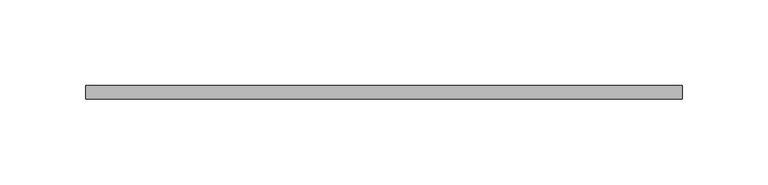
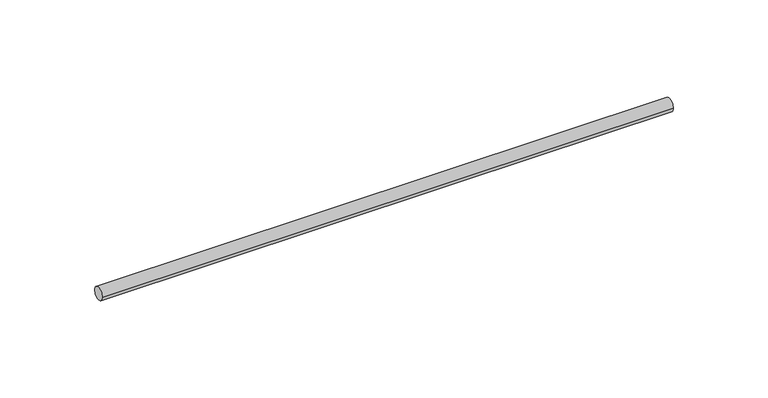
"""IFC4 building model written with IfcOpenShell, lengths in millimetres: valve geometry, Superfix Threaded Rod (used for clamps) : Threaded Rod  Extra  - 1000 mm (used for clamps)."""

from ifc_helpers import new_model, si_unit, point, frame, origin, origin_2d, place, context, project, spatial, circle_curve, trimmed, segment, composite_curve, outline, extrude, source, transform, mapped, element, save


def valve_d78be41b(model_context):
    return source(origin(), model_context, "Body", "SweptSolid", [
        extrude(outline(composite_curve([segment(trimmed(circle_curve(origin_2d(), 4.0), [point((-4.0, 0.0))], [point((4.0, 0.0))], False, "CARTESIAN"), True, "CONTINUOUS"), segment(trimmed(circle_curve(origin_2d(), 4.0), [point((4.0, 0.0))], [point((-4.0, 0.0))], False, "CARTESIAN"), True, "CONTINUOUS")], self_intersect=False)), frame((-10.0, 0.0, 0.0), z_axis=(1.0, 0.0, 0.0), x_axis=(0.0, 1.0, 0.0)), (0.0, 0.0, 1.0), 348.0),
    ])


if __name__ == "__main__":
    model = new_model("IFC4")
    model_context = context("Model", 3, world=origin())
    ifc_project = project(units=[si_unit("LENGTHUNIT", "METRE", prefix="MILLI")], contexts=[model_context])
    site = spatial("IfcSite", under=ifc_project)
    building = spatial("IfcBuilding", under=site)
    placement = place(None, origin())
    valve_shape = valve_d78be41b(model_context)
    element("IfcValve", 1, ObjectType="Superfix Threaded Rod (used for clamps) : Threaded Rod  Extra  - 1000 mm (used for clamps)", at=placement, inside=building, context=model_context, shape_type="MappedRepresentation", body=[
        mapped(valve_shape, transform((0.0, 0.0, 0.0), x_axis=(1.0, 0.0, 0.0), y_axis=(0.0, 1.0, 0.0), z_axis=(0.0, 0.0, 1.0))),
    ])
    save(model, "model.ifc")
